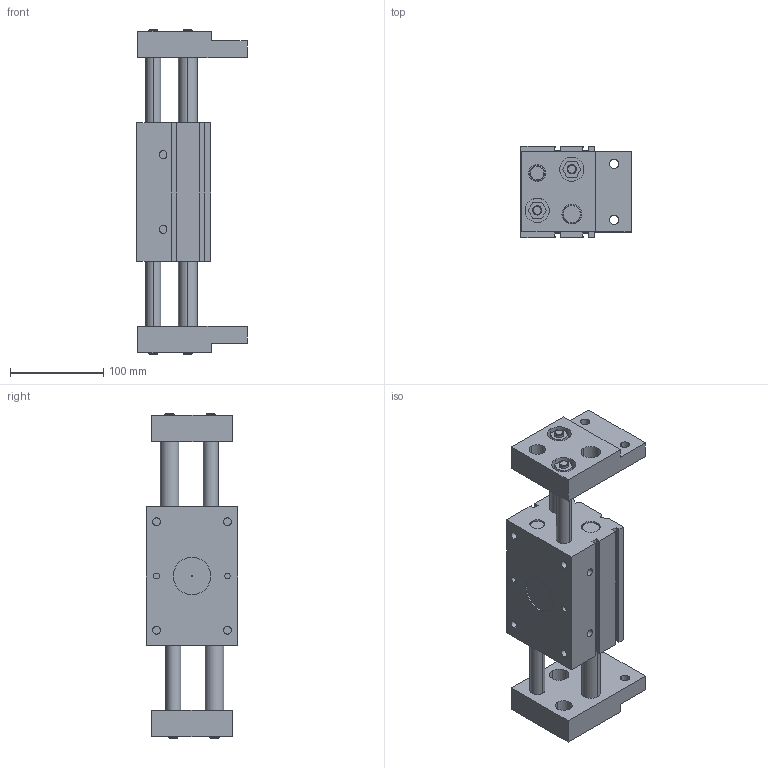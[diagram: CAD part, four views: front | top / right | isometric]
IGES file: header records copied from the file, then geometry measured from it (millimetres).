
Global section: file name: No Iges File Name specified; native system: Autodesk Inventor 2011; preprocessor: AutoDesk Inventor Iges Exporter R2011; author: airolcr1; date: 20110614.105508; units: millimetre
Bounding box: 118 x 98 x 348 mm (x, y, z)
Volume: 1624359.3 mm3; surface area: 235365.3 mm2
Topology: 3 solids, 3 shells, 203 faces, 494 edges, 322 vertices
Faces by surface type: plane 101, bspline 56, cylinder 16, cone 16, revolution 14
